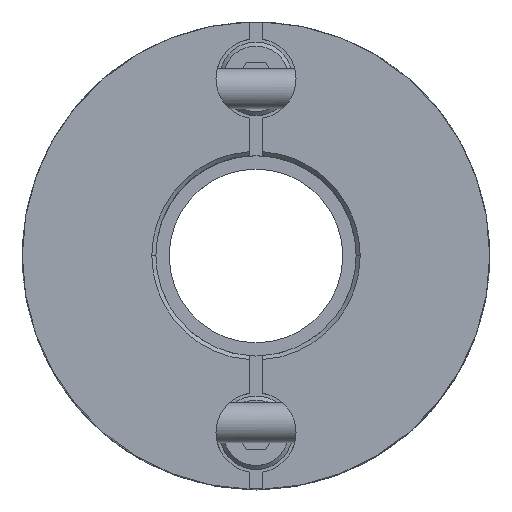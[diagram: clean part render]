
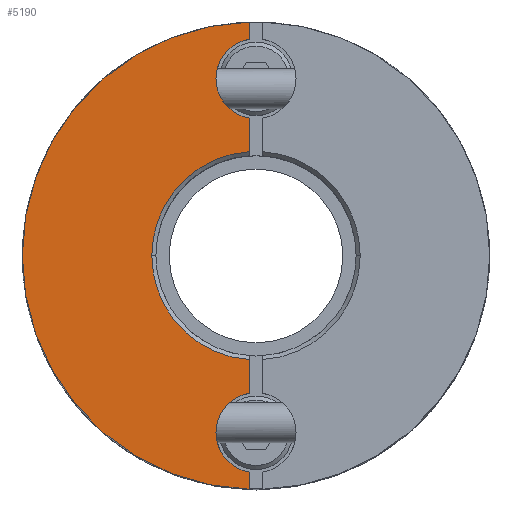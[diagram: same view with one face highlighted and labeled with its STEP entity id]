
A CAD part, top view. The second image highlights one B-rep face of the part: STEP entity #5190.
In plain terms, the highlighted planar face has unit normal (0, 0, 1).
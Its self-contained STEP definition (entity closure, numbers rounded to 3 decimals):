
#2205=CARTESIAN_POINT('',(-7.8,0.,13.5));
#2206=VERTEX_POINT('',#2205);
#2213=CARTESIAN_POINT('',(-0.5,-7.784,13.5));
#2214=VERTEX_POINT('',#2213);
#2215=CARTESIAN_POINT('',(0.,0.0,13.5));
#2216=DIRECTION('',(0.0,0.0,1.0));
#2217=DIRECTION('',(1.0,0.0,0.0));
#2218=AXIS2_PLACEMENT_3D('',#2215,#2216,#2217);
#2219=CIRCLE('',#2218,7.8);
#2220=EDGE_CURVE('',#2206,#2214,#2219,.T.);
#2285=CARTESIAN_POINT('',(-17.5,0.,13.5));
#2286=VERTEX_POINT('',#2285);
#2370=CARTESIAN_POINT('',(-0.5,-17.493,13.5));
#2371=VERTEX_POINT('',#2370);
#2378=CARTESIAN_POINT('',(0.,0.0,13.5));
#2379=DIRECTION('',(0.0,0.0,-1.0));
#2380=DIRECTION('',(-1.0,0.0,0.0));
#2381=AXIS2_PLACEMENT_3D('',#2378,#2379,#2380);
#2382=CIRCLE('',#2381,17.5);
#2383=EDGE_CURVE('',#2371,#2286,#2382,.T.);
#2525=CARTESIAN_POINT('',(-3.,13.25,13.5));
#2526=VERTEX_POINT('',#2525);
#2535=CARTESIAN_POINT('',(-0.5,10.292,13.5));
#2536=VERTEX_POINT('',#2535);
#2537=CARTESIAN_POINT('',(0.,13.25,13.5));
#2538=DIRECTION('',(0.0,0.0,-1.0));
#2539=DIRECTION('',(-1.0,0.0,0.0));
#2540=AXIS2_PLACEMENT_3D('',#2537,#2538,#2539);
#2541=CIRCLE('',#2540,3.0);
#2542=EDGE_CURVE('',#2536,#2526,#2541,.T.);
#2809=CARTESIAN_POINT('',(-3.,-13.25,13.5));
#2810=VERTEX_POINT('',#2809);
#2819=CARTESIAN_POINT('',(-0.5,-16.208,13.5));
#2820=VERTEX_POINT('',#2819);
#2821=CARTESIAN_POINT('',(0.,-13.25,13.5));
#2822=DIRECTION('',(0.0,0.0,-1.0));
#2823=DIRECTION('',(-1.0,0.0,0.0));
#2824=AXIS2_PLACEMENT_3D('',#2821,#2822,#2823);
#2825=CIRCLE('',#2824,3.0);
#2826=EDGE_CURVE('',#2820,#2810,#2825,.T.);
#4908=CARTESIAN_POINT('',(-0.5,-10.292,13.5));
#4909=VERTEX_POINT('',#4908);
#4916=CARTESIAN_POINT('',(0.,-13.25,13.5));
#4917=DIRECTION('',(0.0,0.0,-1.0));
#4918=DIRECTION('',(-1.0,0.0,0.0));
#4919=AXIS2_PLACEMENT_3D('',#4916,#4917,#4918);
#4920=CIRCLE('',#4919,3.0);
#4921=EDGE_CURVE('',#2810,#4909,#4920,.T.);
#5016=CARTESIAN_POINT('',(-0.5,16.208,13.5));
#5017=VERTEX_POINT('',#5016);
#5024=CARTESIAN_POINT('',(0.,13.25,13.5));
#5025=DIRECTION('',(0.0,0.0,-1.0));
#5026=DIRECTION('',(-1.0,0.0,0.0));
#5027=AXIS2_PLACEMENT_3D('',#5024,#5025,#5026);
#5028=CIRCLE('',#5027,3.0);
#5029=EDGE_CURVE('',#2526,#5017,#5028,.T.);
#5114=CARTESIAN_POINT('',(-0.5,-10.292,13.5));
#5115=DIRECTION('',(0.0,1.0,0.0));
#5116=VECTOR('',#5115,2.508);
#5117=LINE('',#5114,#5116);
#5118=EDGE_CURVE('',#4909,#2214,#5117,.T.);
#5129=CARTESIAN_POINT('',(-0.5,-17.493,13.5));
#5130=DIRECTION('',(0.0,1.0,0.0));
#5131=VECTOR('',#5130,1.285);
#5132=LINE('',#5129,#5131);
#5133=EDGE_CURVE('',#2371,#2820,#5132,.T.);
#5145=CARTESIAN_POINT('',(-1.591,0.,13.5));
#5146=DIRECTION('',(0.0,0.0,1.0));
#5147=DIRECTION('',(-1.0,0.0,0.0));
#5148=AXIS2_PLACEMENT_3D('',#5145,#5146,#5147);
#5149=PLANE('',#5148);
#5150=ORIENTED_EDGE('',*,*,#2826,.T.);
#5151=ORIENTED_EDGE('',*,*,#4921,.T.);
#5152=ORIENTED_EDGE('',*,*,#5118,.T.);
#5153=ORIENTED_EDGE('',*,*,#2220,.F.);
#5154=CARTESIAN_POINT('',(-0.5,7.784,13.5));
#5155=VERTEX_POINT('',#5154);
#5156=CARTESIAN_POINT('',(0.,0.0,13.5));
#5157=DIRECTION('',(0.0,0.0,1.0));
#5158=DIRECTION('',(1.0,0.0,0.0));
#5159=AXIS2_PLACEMENT_3D('',#5156,#5157,#5158);
#5160=CIRCLE('',#5159,7.8);
#5161=EDGE_CURVE('',#5155,#2206,#5160,.T.);
#5162=ORIENTED_EDGE('',*,*,#5161,.F.);
#5163=CARTESIAN_POINT('',(-0.5,7.784,13.5));
#5164=DIRECTION('',(0.0,1.0,0.0));
#5165=VECTOR('',#5164,2.508);
#5166=LINE('',#5163,#5165);
#5167=EDGE_CURVE('',#5155,#2536,#5166,.T.);
#5168=ORIENTED_EDGE('',*,*,#5167,.T.);
#5169=ORIENTED_EDGE('',*,*,#2542,.T.);
#5170=ORIENTED_EDGE('',*,*,#5029,.T.);
#5171=CARTESIAN_POINT('',(-0.5,17.493,13.5));
#5172=VERTEX_POINT('',#5171);
#5173=CARTESIAN_POINT('',(-0.5,16.208,13.5));
#5174=DIRECTION('',(0.0,1.0,0.0));
#5175=VECTOR('',#5174,1.285);
#5176=LINE('',#5173,#5175);
#5177=EDGE_CURVE('',#5017,#5172,#5176,.T.);
#5178=ORIENTED_EDGE('',*,*,#5177,.T.);
#5179=CARTESIAN_POINT('',(0.,0.0,13.5));
#5180=DIRECTION('',(0.0,0.0,-1.0));
#5181=DIRECTION('',(-1.0,0.0,0.0));
#5182=AXIS2_PLACEMENT_3D('',#5179,#5180,#5181);
#5183=CIRCLE('',#5182,17.5);
#5184=EDGE_CURVE('',#2286,#5172,#5183,.T.);
#5185=ORIENTED_EDGE('',*,*,#5184,.F.);
#5186=ORIENTED_EDGE('',*,*,#2383,.F.);
#5187=ORIENTED_EDGE('',*,*,#5133,.T.);
#5188=EDGE_LOOP('',(#5150,#5151,#5152,#5153,#5162,#5168,#5169,#5170,#5178,#5185,#5186,#5187));
#5189=FACE_OUTER_BOUND('',#5188,.T.);
#5190=ADVANCED_FACE('',(#5189),#5149,.T.);
